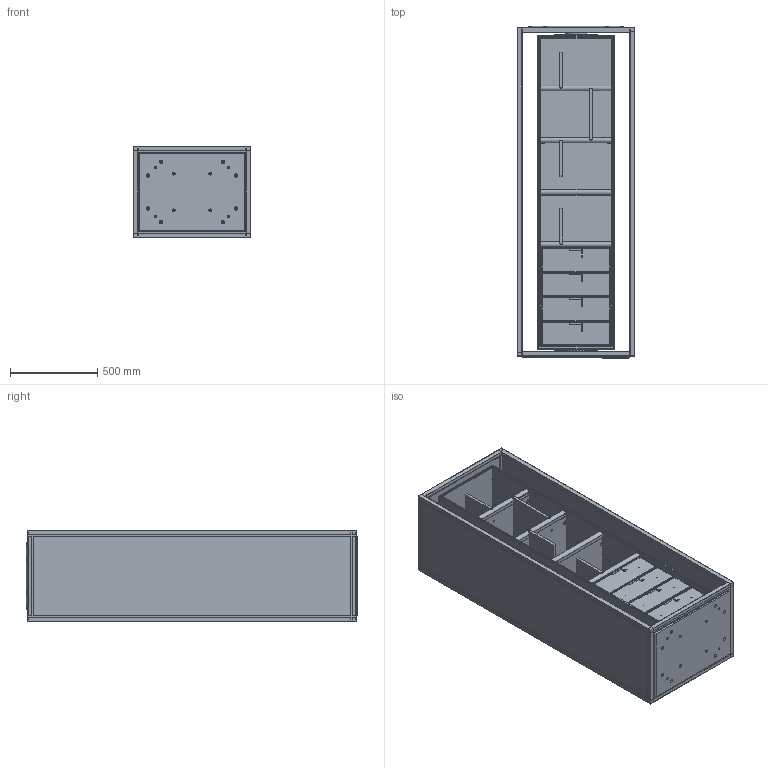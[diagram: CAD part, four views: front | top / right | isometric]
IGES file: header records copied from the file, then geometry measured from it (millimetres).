
Global section: file name: 80061; native system: Autodesk Inventor 2014; preprocessor: unknown; author: Robertom; date: 20140526.111944; units: millimetre
Bounding box: 675 x 1903.5 x 520 mm (x, y, z)
Volume: 126704858.6 mm3; surface area: 22383041.5 mm2
Topology: 112 solids, 128 shells, 2920 faces, 8235 edges, 5709 vertices
Faces by surface type: bspline 2920
